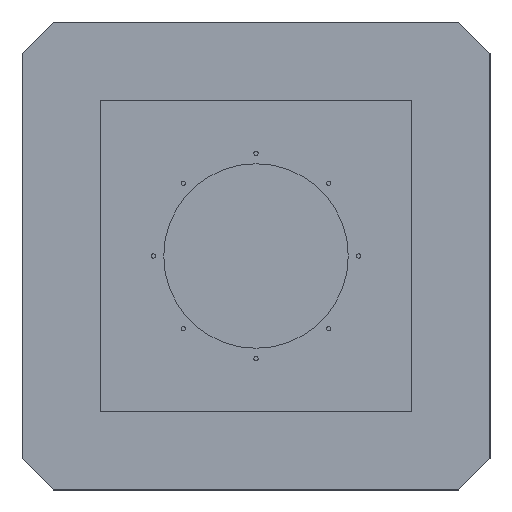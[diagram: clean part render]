
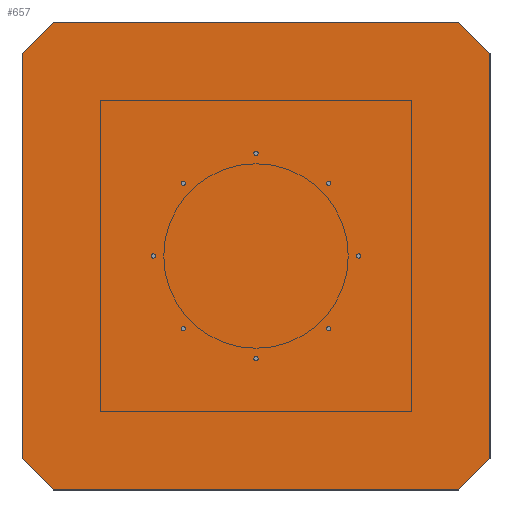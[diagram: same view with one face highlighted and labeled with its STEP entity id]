
A CAD part, front view. The second image highlights one B-rep face of the part: STEP entity #657.
In plain terms, the highlighted planar face has unit normal (0, -1, 0).
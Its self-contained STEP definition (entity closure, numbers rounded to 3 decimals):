
#47=FACE_BOUND('',#195,.T.);
#48=FACE_BOUND('',#196,.T.);
#49=FACE_BOUND('',#197,.T.);
#50=FACE_BOUND('',#198,.T.);
#51=FACE_BOUND('',#199,.T.);
#52=FACE_BOUND('',#200,.T.);
#53=FACE_BOUND('',#201,.T.);
#54=FACE_BOUND('',#202,.T.);
#57=CIRCLE('',#668,4.);
#59=CIRCLE('',#672,4.);
#61=CIRCLE('',#676,4.);
#63=CIRCLE('',#680,4.);
#65=CIRCLE('',#684,4.);
#67=CIRCLE('',#688,4.);
#69=CIRCLE('',#692,4.);
#71=CIRCLE('',#696,4.);
#128=FACE_OUTER_BOUND('',#194,.T.);
#194=EDGE_LOOP('',(#563,#564,#565,#566,#567,#568,#569,#570));
#195=EDGE_LOOP('',(#571));
#196=EDGE_LOOP('',(#572));
#197=EDGE_LOOP('',(#573));
#198=EDGE_LOOP('',(#574));
#199=EDGE_LOOP('',(#575));
#200=EDGE_LOOP('',(#576));
#201=EDGE_LOOP('',(#577));
#202=EDGE_LOOP('',(#578));
#229=LINE('',#1062,#277);
#233=LINE('',#1069,#281);
#236=LINE('',#1075,#284);
#239=LINE('',#1081,#287);
#242=LINE('',#1087,#290);
#245=LINE('',#1093,#293);
#248=LINE('',#1099,#296);
#250=LINE('',#1102,#298);
#277=VECTOR('',#886,780.);
#281=VECTOR('',#892,84.853);
#284=VECTOR('',#897,780.);
#287=VECTOR('',#902,84.853);
#290=VECTOR('',#907,780.);
#293=VECTOR('',#912,84.853);
#296=VECTOR('',#917,780.);
#298=VECTOR('',#921,84.853);
#309=VERTEX_POINT('',#957);
#311=VERTEX_POINT('',#963);
#313=VERTEX_POINT('',#969);
#315=VERTEX_POINT('',#975);
#317=VERTEX_POINT('',#981);
#319=VERTEX_POINT('',#987);
#321=VERTEX_POINT('',#993);
#323=VERTEX_POINT('',#999);
#343=VERTEX_POINT('',#1059);
#344=VERTEX_POINT('',#1061);
#346=VERTEX_POINT('',#1067);
#348=VERTEX_POINT('',#1073);
#350=VERTEX_POINT('',#1079);
#352=VERTEX_POINT('',#1085);
#354=VERTEX_POINT('',#1091);
#356=VERTEX_POINT('',#1097);
#371=EDGE_CURVE('',#309,#309,#57,.T.);
#373=EDGE_CURVE('',#311,#311,#59,.T.);
#375=EDGE_CURVE('',#313,#313,#61,.T.);
#377=EDGE_CURVE('',#315,#315,#63,.T.);
#379=EDGE_CURVE('',#317,#317,#65,.T.);
#381=EDGE_CURVE('',#319,#319,#67,.T.);
#383=EDGE_CURVE('',#321,#321,#69,.T.);
#385=EDGE_CURVE('',#323,#323,#71,.T.);
#409=EDGE_CURVE('',#343,#344,#229,.T.);
#413=EDGE_CURVE('',#346,#343,#233,.T.);
#416=EDGE_CURVE('',#348,#346,#236,.T.);
#419=EDGE_CURVE('',#350,#348,#239,.T.);
#422=EDGE_CURVE('',#352,#350,#242,.T.);
#425=EDGE_CURVE('',#354,#352,#245,.T.);
#428=EDGE_CURVE('',#356,#354,#248,.T.);
#430=EDGE_CURVE('',#344,#356,#250,.T.);
#563=ORIENTED_EDGE('',*,*,#430,.F.);
#564=ORIENTED_EDGE('',*,*,#409,.F.);
#565=ORIENTED_EDGE('',*,*,#413,.F.);
#566=ORIENTED_EDGE('',*,*,#416,.F.);
#567=ORIENTED_EDGE('',*,*,#419,.F.);
#568=ORIENTED_EDGE('',*,*,#422,.F.);
#569=ORIENTED_EDGE('',*,*,#425,.F.);
#570=ORIENTED_EDGE('',*,*,#428,.F.);
#571=ORIENTED_EDGE('',*,*,#371,.T.);
#572=ORIENTED_EDGE('',*,*,#373,.T.);
#573=ORIENTED_EDGE('',*,*,#375,.T.);
#574=ORIENTED_EDGE('',*,*,#377,.T.);
#575=ORIENTED_EDGE('',*,*,#379,.T.);
#576=ORIENTED_EDGE('',*,*,#381,.T.);
#577=ORIENTED_EDGE('',*,*,#383,.T.);
#578=ORIENTED_EDGE('',*,*,#385,.T.);
#611=PLANE('',#731);
#657=ADVANCED_FACE('',(#128,#47,#48,#49,#50,#51,#52,#53,#54),#611,.F.);
#668=AXIS2_PLACEMENT_3D('',#958,#762,#763);
#672=AXIS2_PLACEMENT_3D('',#964,#770,#771);
#676=AXIS2_PLACEMENT_3D('',#970,#778,#779);
#680=AXIS2_PLACEMENT_3D('',#976,#786,#787);
#684=AXIS2_PLACEMENT_3D('',#982,#794,#795);
#688=AXIS2_PLACEMENT_3D('',#988,#802,#803);
#692=AXIS2_PLACEMENT_3D('',#994,#810,#811);
#696=AXIS2_PLACEMENT_3D('',#1000,#818,#819);
#731=AXIS2_PLACEMENT_3D('',#1104,#924,#925);
#762=DIRECTION('center_axis',(0.,1.,0.));
#763=DIRECTION('ref_axis',(-0.707,0.,-0.707));
#770=DIRECTION('center_axis',(0.,1.,0.));
#771=DIRECTION('ref_axis',(0.,0.,-1.));
#778=DIRECTION('center_axis',(0.,1.,0.));
#779=DIRECTION('ref_axis',(0.707,0.,-0.707));
#786=DIRECTION('center_axis',(0.,1.,0.));
#787=DIRECTION('ref_axis',(1.,0.,0.));
#794=DIRECTION('center_axis',(0.,1.,0.));
#795=DIRECTION('ref_axis',(0.707,0.,0.707));
#802=DIRECTION('center_axis',(0.,1.,0.));
#803=DIRECTION('ref_axis',(0.,0.,1.));
#810=DIRECTION('center_axis',(0.,1.,0.));
#811=DIRECTION('ref_axis',(-0.707,0.,0.707));
#818=DIRECTION('center_axis',(0.,1.,0.));
#819=DIRECTION('ref_axis',(-1.,0.,0.));
#886=DIRECTION('',(1.,0.,0.));
#892=DIRECTION('',(0.707,0.,0.707));
#897=DIRECTION('',(0.,0.,1.));
#902=DIRECTION('',(-0.707,0.,0.707));
#907=DIRECTION('',(-1.,0.,0.));
#912=DIRECTION('',(-0.707,0.,-0.707));
#917=DIRECTION('',(0.,0.,-1.));
#921=DIRECTION('',(0.707,0.,-0.707));
#924=DIRECTION('center_axis',(0.,1.,0.));
#925=DIRECTION('ref_axis',(0.,0.,1.));
#957=CARTESIAN_POINT('',(142.482,0.,142.482));
#958=CARTESIAN_POINT('Origin',(139.654,0.,139.654));
#963=CARTESIAN_POINT('',(0.,0.,201.5));
#964=CARTESIAN_POINT('Origin',(0.,0.,197.5));
#969=CARTESIAN_POINT('',(-142.482,0.,142.482));
#970=CARTESIAN_POINT('Origin',(-139.654,0.,139.654));
#975=CARTESIAN_POINT('',(-201.5,0.,0.));
#976=CARTESIAN_POINT('Origin',(-197.5,0.,0.));
#981=CARTESIAN_POINT('',(-142.482,0.,-142.482));
#982=CARTESIAN_POINT('Origin',(-139.654,0.,-139.654));
#987=CARTESIAN_POINT('',(0.,0.,-201.5));
#988=CARTESIAN_POINT('Origin',(0.,0.,-197.5));
#993=CARTESIAN_POINT('',(142.482,0.,-142.482));
#994=CARTESIAN_POINT('Origin',(139.654,0.,-139.654));
#999=CARTESIAN_POINT('',(201.5,0.,0.));
#1000=CARTESIAN_POINT('Origin',(197.5,0.,0.));
#1059=CARTESIAN_POINT('',(-390.,0.,450.));
#1061=CARTESIAN_POINT('',(390.,0.,450.));
#1062=CARTESIAN_POINT('',(-390.,0.,450.));
#1067=CARTESIAN_POINT('',(-450.,0.,390.));
#1069=CARTESIAN_POINT('',(-450.,0.,390.));
#1073=CARTESIAN_POINT('',(-450.,0.,-390.));
#1075=CARTESIAN_POINT('',(-450.,0.,-390.));
#1079=CARTESIAN_POINT('',(-390.,0.,-450.));
#1081=CARTESIAN_POINT('',(-390.,0.,-450.));
#1085=CARTESIAN_POINT('',(390.,0.,-450.));
#1087=CARTESIAN_POINT('',(390.,0.,-450.));
#1091=CARTESIAN_POINT('',(450.,0.,-390.));
#1093=CARTESIAN_POINT('',(450.,0.,-390.));
#1097=CARTESIAN_POINT('',(450.,0.,390.));
#1099=CARTESIAN_POINT('',(450.,0.,390.));
#1102=CARTESIAN_POINT('',(390.,0.,450.));
#1104=CARTESIAN_POINT('Origin',(0.,0.,0.));
